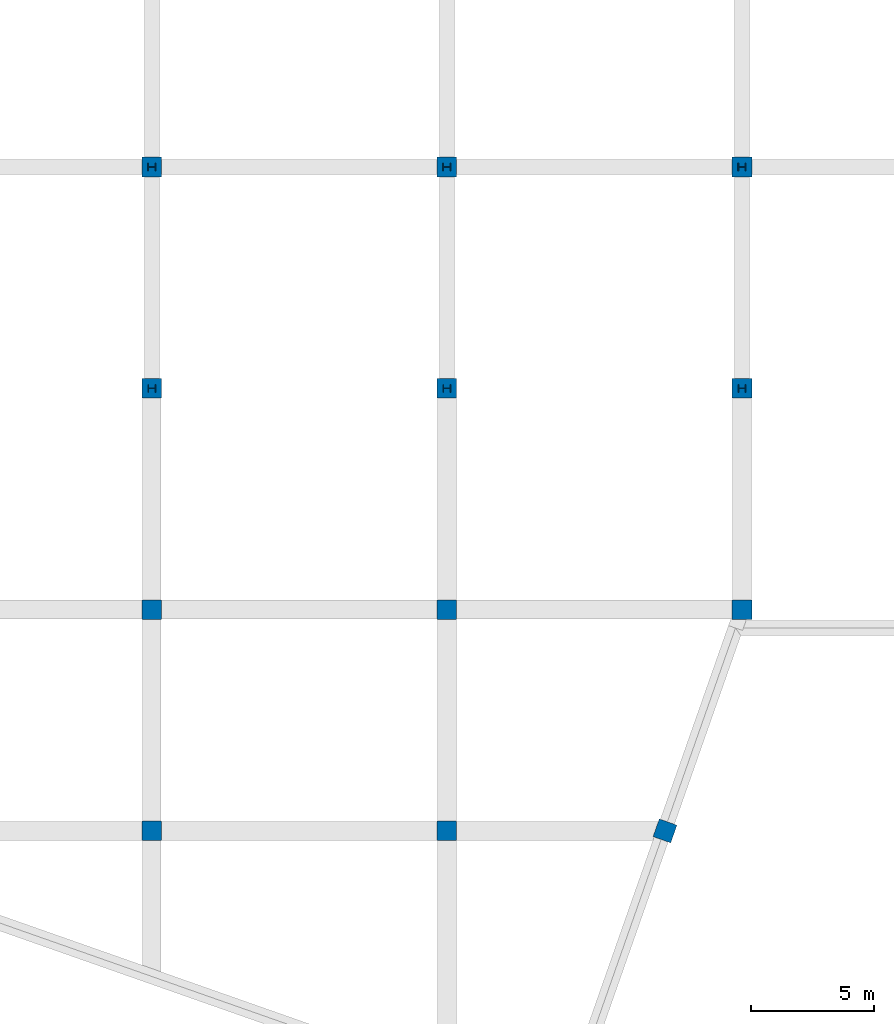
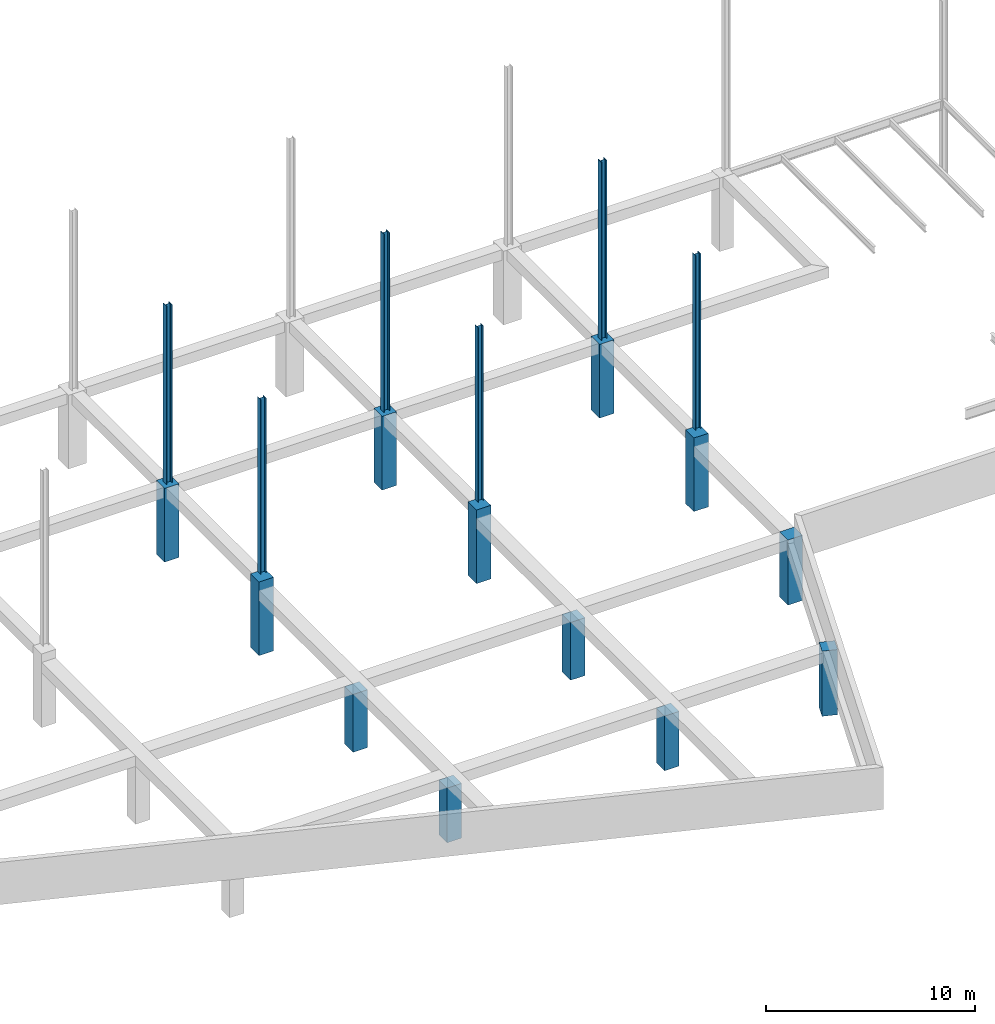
# One storey, part 3 of 19: 18 columns.
"""IFC2X3 building model written with IfcOpenShell, lengths in millimetres."""

import ifcopenshell
import ifcopenshell.guid

model = None  # the IFC model being written
_history = None  # IfcOwnerHistory: only IFC2X3 demands one
_inside = {}  # id of a spatial element -> (the spatial element, [elements in it])
_under = {}  # id of a project, library or spatial element -> (it, [spatial elements below it])
_declared = {}  # id of a project -> (the project, [libraries it declares])
_typed = {}  # id of a type object -> (the type object, [elements of that type])
_made_of = {}  # id of a material, layer set ... -> (it, [elements and type objects made of it])


def new_model(schema):
    """Start an empty IFC model of exactly this schema.

    Asked for "IFC4X3", IfcOpenShell would pick the latest addendum, in which some entities
    have other attributes; the version numbers below select the first issue.
    IFC2X3 requires an IfcOwnerHistory on every rooted entity: one is made here for all.
    """
    global model, _history
    if schema == "IFC4X3":
        model = ifcopenshell.file(schema_version=(4, 3, 0, 0))
    else:
        model = ifcopenshell.file(schema=schema)
    _inside.clear()
    _under.clear()
    _declared.clear()
    _typed.clear()
    _made_of.clear()
    _history = None
    if model.schema == "IFC2X3":
        org = make("IfcOrganization", Name="unknown")
        user = make(
            "IfcPersonAndOrganization",
            ThePerson=make("IfcPerson", FamilyName="unknown"),
            TheOrganization=org,
        )
        app = make(
            "IfcApplication",
            ApplicationDeveloper=org,
            Version="unknown",
            ApplicationFullName="unknown",
            ApplicationIdentifier="unknown",
        )
        _history = make(
            "IfcOwnerHistory",
            OwningUser=user,
            OwningApplication=app,
            ChangeAction="ADDED",
            CreationDate=0,
        )
    return model


def make(cls, **values):
    """One entity of the class cls with the attributes given. An attribute that is None is left unset."""
    return model.create_entity(
        cls, **{name: value for name, value in values.items() if value is not None}
    )


def rooted(cls, **values):
    """An entity with a GlobalId (a new one), such as an element, a storey or a relation."""
    return make(cls, GlobalId=ifcopenshell.guid.new(), OwnerHistory=_history, **values)


def si_unit(unit_type, name, prefix=None):
    """IfcSIUnit, for example si_unit("LENGTHUNIT", "METRE", prefix="MILLI")."""
    return make("IfcSIUnit", UnitType=unit_type, Prefix=prefix, Name=name)


def assignment(units):
    """IfcUnitAssignment: the units of a project."""
    return None if units is None else make("IfcUnitAssignment", Units=units)


def point(xyz):
    """IfcCartesianPoint."""
    return None if xyz is None else make("IfcCartesianPoint", Coordinates=xyz)


def direction(xyz):
    """IfcDirection."""
    return None if xyz is None else make("IfcDirection", DirectionRatios=xyz)


def frame(location, z_axis=None, x_axis=None):
    """IfcAxis2Placement3D, a coordinate frame: its origin and axes. An axis left out is left unset."""
    return make(
        "IfcAxis2Placement3D",
        Location=point(location),
        Axis=direction(z_axis),
        RefDirection=direction(x_axis),
    )


def origin():
    """The frame at (0, 0, 0) with its axes left unset."""
    return frame((0.0, 0.0, 0.0))


def place(relative_to, where):
    """IfcLocalPlacement: puts the frame where relative to a parent placement (None: the world)."""
    return make(
        "IfcLocalPlacement", PlacementRelTo=relative_to, RelativePlacement=where
    )


def context(
    kind, dimensions, precision=None, world=None, true_north=None, identifier=None
):
    """IfcGeometricRepresentationContext, for example the 3D "Model" context."""
    return make(
        "IfcGeometricRepresentationContext",
        ContextIdentifier=identifier,
        ContextType=kind,
        CoordinateSpaceDimension=dimensions,
        Precision=precision,
        WorldCoordinateSystem=world,
        TrueNorth=true_north,
    )


def project(units=None, contexts=None):
    """IfcProject with its units and contexts."""
    return rooted(
        "IfcProject",
        Name="project",
        RepresentationContexts=contexts,
        UnitsInContext=assignment(units),
    )


def spatial(cls, under=None, at=None, **own):
    """A site, building, storey or space (cls), placed at a placement, below another one or the project."""
    s = rooted(cls, ObjectPlacement=at, **own)
    if under is not None:
        _under.setdefault(under.id(), (under, []))[1].append(s)
    return s


def faces_of(points, faces, orient=None, outer=None):
    """IfcFace entities. A face is a list of loops; a loop is a list of indices into points, from 0.

    orient and outer hold one flag for each loop. By default every Orientation is true, the
    first loop of a face is its IfcFaceOuterBound and the others are IfcFaceBound.
    """
    made = []
    for i, loops in enumerate(faces):
        bounds = []
        for j, loop in enumerate(loops):
            is_outer = j == 0 if outer is None else outer[i][j]
            bounds.append(
                make(
                    "IfcFaceOuterBound" if is_outer else "IfcFaceBound",
                    Bound=make("IfcPolyLoop", Polygon=[points[k] for k in loop]),
                    Orientation=True if orient is None else orient[i][j],
                )
            )
        made.append(make("IfcFace", Bounds=bounds))
    return made


def faceted_brep(points, faces, orient=None, outer=None, voids=None):
    """IfcFacetedBrep: a solid bounded by flat faces; with voids (closed shells), ...WithVoids."""
    shared = [point(p) for p in points]
    hull = make("IfcClosedShell", CfsFaces=faces_of(shared, faces, orient, outer))
    if voids is None:
        return make("IfcFacetedBrep", Outer=hull)
    return make(
        "IfcFacetedBrepWithVoids",
        Outer=hull,
        Voids=[
            make(cls, CfsFaces=faces_of(shared, fs, o, b)) for cls, fs, o, b in voids
        ],
    )


def shape(context_of_items, identifier, shape_type, items):
    """IfcShapeRepresentation: the items that make up one representation, for example the "Body"."""
    return make(
        "IfcShapeRepresentation",
        ContextOfItems=context_of_items,
        RepresentationIdentifier=identifier,
        RepresentationType=shape_type,
        Items=items,
    )


def material(Name=None, Category=None):
    """IfcMaterial."""
    return make("IfcMaterial", Name=Name, Category=Category)


def made_of(thing, what):
    """Note that an element or type object is made of a material, layer set ...; save() writes the relation."""
    if what is not None:
        _made_of.setdefault(what.id(), (what, []))[1].append(thing)
    return thing


def element(
    cls,
    number,
    at=None,
    inside=None,
    cuts=None,
    type_object=None,
    material=None,
    context=None,
    identifier="Body",
    shape_type=None,
    held_by="IfcProductDefinitionShape",
    body=None,
    shapes=None,
    **own,
):
    """One element of the class cls, such as IfcWall. Its Tag is "e" and its number.

    at: its placement. inside: the storey or other place that contains it. cuts: it is an
    opening in that element (IfcRelVoidsElement). A single representation is given by context,
    identifier, shape_type and body (its items); several are given by shapes. held_by: the class
    of the entity that holds the representations. save() writes the other relations.
    """
    e = rooted(cls, Tag="e%d" % number, ObjectPlacement=at, **own)
    if body is not None:
        shapes = [shape(context, identifier, shape_type, body)]
    if shapes is not None:
        e.Representation = make(held_by, Representations=shapes)
    if inside is not None:
        _inside.setdefault(inside.id(), (inside, []))[1].append(e)
    if cuts is not None:
        rooted(
            "IfcRelVoidsElement", RelatingBuildingElement=cuts, RelatedOpeningElement=e
        )
    if type_object is not None:
        _typed.setdefault(type_object.id(), (type_object, []))[1].append(e)
    return made_of(e, material)


def aggregate(whole, parts):
    """IfcRelAggregates: a whole, such as a stair, and the parts it consists of."""
    return rooted("IfcRelAggregates", RelatingObject=whole, RelatedObjects=parts)


def save(model, path):
    """Write the relations noted so far, then the file.

    IfcRelAggregates (storeys below a building ...), IfcRelContainedInSpatialStructure (elements
    in a storey), IfcRelDefinesByType, IfcRelAssociatesMaterial and IfcRelDeclares: one each for
    every whole, place, type object, material and project.
    """
    for whole, parts in _under.values():
        aggregate(whole, parts)
    for where, things in _inside.values():
        rooted(
            "IfcRelContainedInSpatialStructure",
            RelatedElements=things,
            RelatingStructure=where,
        )
    for kind, things in _typed.values():
        rooted("IfcRelDefinesByType", RelatedObjects=things, RelatingType=kind)
    for what, things in _made_of.values():
        rooted("IfcRelAssociatesMaterial", RelatedObjects=things, RelatingMaterial=what)
    for by, libraries in _declared.values():
        rooted("IfcRelDeclares", RelatingContext=by, RelatedDefinitions=libraries)
    model.write(path)


model = new_model("IFC2X3")

# Units and contexts
context_of_model = context(None, 3, precision=1e-05, world=origin())
ifc_project = project(units=[si_unit("LENGTHUNIT", "METRE", prefix="MILLI")], contexts=[context_of_model])

# Building, storey
building = spatial("IfcBuilding", under=ifc_project, Name="Building", CompositionType="ELEMENT")
storey = spatial("IfcBuildingStorey", under=building, Name="FL2-FRM", CompositionType="ELEMENT")

# Columns
ifc_material_1 = material(Name="A992")
column_1_placement = place(None, origin())
element("IfcColumn", 1, at=column_1_placement, inside=storey, material=ifc_material_1, Name="Column280", context=context_of_model, shape_type="Brep", body=[
    faceted_brep([(-35836.5, 26845.0, 4296.8), (-35836.5, 27155.0, 4296.8), (-35836.5, 27155.0, 14694.2), (-35836.5, 26845.0, 14694.2), (-35861.6, 27155.0, 4296.8), (-35861.6, 27155.0, 14694.2), (-35861.6, 27022.9, 4296.8), (-35861.6, 27022.9, 14694.2), (-35862.1, 27019.0, 4296.8), (-35862.1, 27019.0, 14694.2), (-35863.6, 27015.3, 4296.8), (-35863.6, 27015.3, 14694.2), (-35866.1, 27012.2, 4296.8), (-35866.1, 27012.2, 14694.2), (-35869.2, 27009.8, 4296.8), (-35869.2, 27009.8, 14694.2), (-35872.9, 27008.3, 4296.8), (-35872.9, 27008.3, 14694.2), (-35876.8, 27007.8, 4296.8), (-35876.8, 27007.8, 14694.2), (-36123.2, 27007.8, 4296.8), (-36123.2, 27007.8, 14694.2), (-36127.1, 27008.3, 4296.8), (-36127.1, 27008.3, 14694.2), (-36130.8, 27009.8, 4296.8), (-36130.8, 27009.8, 14694.2), (-36133.9, 27012.2, 4296.8), (-36133.9, 27012.2, 14694.2), (-36136.4, 27015.3, 4296.8), (-36136.4, 27015.3, 14694.2), (-36137.9, 27019.0, 4296.8), (-36137.9, 27019.0, 14694.2), (-36138.4, 27022.9, 4296.8), (-36138.4, 27022.9, 14694.2), (-36138.4, 27155.0, 4296.8), (-36138.4, 27155.0, 14694.2), (-36163.5, 27155.0, 4296.8), (-36163.5, 27155.0, 14694.2), (-36163.5, 26845.0, 4296.8), (-36163.5, 26845.0, 14694.2), (-36138.4, 26845.0, 4296.8), (-36138.4, 26845.0, 14694.2), (-36138.4, 26977.1, 4296.8), (-36138.4, 26977.1, 14694.2), (-36137.9, 26981.0, 4296.8), (-36137.9, 26981.0, 14694.2), (-36136.4, 26984.7, 4296.8), (-36136.4, 26984.7, 14694.2), (-36133.9, 26987.8, 4296.8), (-36133.9, 26987.8, 14694.2), (-36130.8, 26990.2, 4296.8), (-36130.8, 26990.2, 14694.2), (-36127.1, 26991.7, 4296.8), (-36127.1, 26991.7, 14694.2), (-36123.2, 26992.3, 4296.8), (-36123.2, 26992.3, 14694.2), (-35876.8, 26992.3, 4296.8), (-35876.8, 26992.3, 14694.2), (-35872.9, 26991.7, 4296.8), (-35872.9, 26991.7, 14694.2), (-35869.2, 26990.2, 4296.8), (-35869.2, 26990.2, 14694.2), (-35866.1, 26987.8, 4296.8), (-35866.1, 26987.8, 14694.2), (-35863.6, 26984.7, 4296.8), (-35863.6, 26984.7, 14694.2), (-35862.1, 26981.0, 4296.8), (-35862.1, 26981.0, 14694.2), (-35861.6, 26977.1, 4296.8), (-35861.6, 26977.1, 14694.2), (-35861.6, 26845.0, 4296.8), (-35861.6, 26845.0, 14694.2)], [[[0, 1, 2, 3]], [[1, 4, 5, 2]], [[4, 6, 7, 5]], [[6, 8, 9, 7]], [[8, 10, 11, 9]], [[10, 12, 13, 11]], [[12, 14, 15, 13]], [[14, 16, 17, 15]], [[16, 18, 19, 17]], [[18, 20, 21, 19]], [[20, 22, 23, 21]], [[22, 24, 25, 23]], [[24, 26, 27, 25]], [[26, 28, 29, 27]], [[28, 30, 31, 29]], [[30, 32, 33, 31]], [[32, 34, 35, 33]], [[34, 36, 37, 35]], [[36, 38, 39, 37]], [[38, 40, 41, 39]], [[40, 42, 43, 41]], [[42, 44, 45, 43]], [[44, 46, 47, 45]], [[46, 48, 49, 47]], [[48, 50, 51, 49]], [[50, 52, 53, 51]], [[52, 54, 55, 53]], [[54, 56, 57, 55]], [[56, 58, 59, 57]], [[58, 60, 61, 59]], [[60, 62, 63, 61]], [[62, 64, 65, 63]], [[64, 66, 67, 65]], [[66, 68, 69, 67]], [[68, 70, 71, 69]], [[70, 0, 3, 71]], [[0, 70, 68, 66, 64, 62, 60, 58, 56, 54, 52, 50, 48, 46, 44, 42, 40, 38, 36, 34, 32, 30, 28, 26, 24, 22, 20, 18, 16, 14, 12, 10, 8, 6, 4, 1]], [[3, 2, 5, 7, 9, 11, 13, 15, 17, 19, 21, 23, 25, 27, 29, 31, 33, 35, 37, 39, 41, 43, 45, 47, 49, 51, 53, 55, 57, 59, 61, 63, 65, 67, 69, 71]]]),
])
ifc_material_2 = material(Name="A992")
column_2_placement = place(None, origin())
element("IfcColumn", 2, at=column_2_placement, inside=storey, material=ifc_material_2, Name="Column282", context=context_of_model, shape_type="Brep", body=[
    faceted_brep([(-35846.0, 17847.5, 4500.0), (-35846.0, 18152.5, 4500.0), (-35846.0, 18152.5, 14694.2), (-35846.0, 17847.5, 14694.2), (-35861.4, 18152.5, 4500.0), (-35861.4, 18152.5, 14694.2), (-35861.4, 18020.1, 4500.0), (-35861.4, 18020.1, 14694.2), (-35861.9, 18016.2, 4500.0), (-35861.9, 18016.2, 14694.2), (-35863.4, 18012.5, 4500.0), (-35863.4, 18012.5, 14694.2), (-35865.9, 18009.4, 4500.0), (-35865.9, 18009.4, 14694.2), (-35869.0, 18007.0, 4500.0), (-35869.0, 18007.0, 14694.2), (-35872.7, 18005.5, 4500.0), (-35872.7, 18005.5, 14694.2), (-35876.6, 18004.9, 4500.0), (-35876.6, 18004.9, 14694.2), (-36123.4, 18004.9, 4500.0), (-36123.4, 18004.9, 14694.2), (-36127.3, 18005.5, 4500.0), (-36127.3, 18005.5, 14694.2), (-36131.0, 18007.0, 4500.0), (-36131.0, 18007.0, 14694.2), (-36134.1, 18009.4, 4500.0), (-36134.1, 18009.4, 14694.2), (-36136.6, 18012.5, 4500.0), (-36136.6, 18012.5, 14694.2), (-36138.1, 18016.2, 4500.0), (-36138.1, 18016.2, 14694.2), (-36138.6, 18020.1, 4500.0), (-36138.6, 18020.1, 14694.2), (-36138.6, 18152.5, 4500.0), (-36138.6, 18152.5, 14694.2), (-36154.0, 18152.5, 4500.0), (-36154.0, 18152.5, 14694.2), (-36154.0, 17847.5, 4500.0), (-36154.0, 17847.5, 14694.2), (-36138.6, 17847.5, 4500.0), (-36138.6, 17847.5, 14694.2), (-36138.6, 17979.9, 4500.0), (-36138.6, 17979.9, 14694.2), (-36138.1, 17983.8, 4500.0), (-36138.1, 17983.8, 14694.2), (-36136.6, 17987.5, 4500.0), (-36136.6, 17987.5, 14694.2), (-36134.1, 17990.6, 4500.0), (-36134.1, 17990.6, 14694.2), (-36131.0, 17993.0, 4500.0), (-36131.0, 17993.0, 14694.2), (-36127.3, 17994.5, 4500.0), (-36127.3, 17994.5, 14694.2), (-36123.4, 17995.1, 4500.0), (-36123.4, 17995.1, 14694.2), (-35876.6, 17995.1, 4500.0), (-35876.6, 17995.1, 14694.2), (-35872.7, 17994.5, 4500.0), (-35872.7, 17994.5, 14694.2), (-35869.0, 17993.0, 4500.0), (-35869.0, 17993.0, 14694.2), (-35865.9, 17990.6, 4500.0), (-35865.9, 17990.6, 14694.2), (-35863.4, 17987.5, 4500.0), (-35863.4, 17987.5, 14694.2), (-35861.9, 17983.8, 4500.0), (-35861.9, 17983.8, 14694.2), (-35861.4, 17979.9, 4500.0), (-35861.4, 17979.9, 14694.2), (-35861.4, 17847.5, 4500.0), (-35861.4, 17847.5, 14694.2)], [[[0, 1, 2, 3]], [[1, 4, 5, 2]], [[4, 6, 7, 5]], [[6, 8, 9, 7]], [[8, 10, 11, 9]], [[10, 12, 13, 11]], [[12, 14, 15, 13]], [[14, 16, 17, 15]], [[16, 18, 19, 17]], [[18, 20, 21, 19]], [[20, 22, 23, 21]], [[22, 24, 25, 23]], [[24, 26, 27, 25]], [[26, 28, 29, 27]], [[28, 30, 31, 29]], [[30, 32, 33, 31]], [[32, 34, 35, 33]], [[34, 36, 37, 35]], [[36, 38, 39, 37]], [[38, 40, 41, 39]], [[40, 42, 43, 41]], [[42, 44, 45, 43]], [[44, 46, 47, 45]], [[46, 48, 49, 47]], [[48, 50, 51, 49]], [[50, 52, 53, 51]], [[52, 54, 55, 53]], [[54, 56, 57, 55]], [[56, 58, 59, 57]], [[58, 60, 61, 59]], [[60, 62, 63, 61]], [[62, 64, 65, 63]], [[64, 66, 67, 65]], [[66, 68, 69, 67]], [[68, 70, 71, 69]], [[70, 0, 3, 71]], [[0, 70, 68, 66, 64, 62, 60, 58, 56, 54, 52, 50, 48, 46, 44, 42, 40, 38, 36, 34, 32, 30, 28, 26, 24, 22, 20, 18, 16, 14, 12, 10, 8, 6, 4, 1]], [[3, 2, 5, 7, 9, 11, 13, 15, 17, 19, 21, 23, 25, 27, 29, 31, 33, 35, 37, 39, 41, 43, 45, 47, 49, 51, 53, 55, 57, 59, 61, 63, 65, 67, 69, 71]]]),
])
ifc_material_3 = material(Name="A992")
column_3_placement = place(None, origin())
element("IfcColumn", 3, at=column_3_placement, inside=storey, material=ifc_material_3, Name="Column286", context=context_of_model, shape_type="Brep", body=[
    faceted_brep([(-23836.5, 26845.0, 4296.8), (-23836.5, 27155.0, 4296.8), (-23836.5, 27155.0, 14694.2), (-23836.5, 26845.0, 14694.2), (-23861.6, 27155.0, 4296.8), (-23861.6, 27155.0, 14694.2), (-23861.6, 27022.9, 4296.8), (-23861.6, 27022.9, 14694.2), (-23862.1, 27019.0, 4296.8), (-23862.1, 27019.0, 14694.2), (-23863.6, 27015.3, 4296.8), (-23863.6, 27015.3, 14694.2), (-23866.1, 27012.2, 4296.8), (-23866.1, 27012.2, 14694.2), (-23869.2, 27009.8, 4296.8), (-23869.2, 27009.8, 14694.2), (-23872.9, 27008.3, 4296.8), (-23872.9, 27008.3, 14694.2), (-23876.8, 27007.8, 4296.8), (-23876.8, 27007.8, 14694.2), (-24123.2, 27007.8, 4296.8), (-24123.2, 27007.8, 14694.2), (-24127.1, 27008.3, 4296.8), (-24127.1, 27008.3, 14694.2), (-24130.8, 27009.8, 4296.8), (-24130.8, 27009.8, 14694.2), (-24133.9, 27012.2, 4296.8), (-24133.9, 27012.2, 14694.2), (-24136.4, 27015.3, 4296.8), (-24136.4, 27015.3, 14694.2), (-24137.9, 27019.0, 4296.8), (-24137.9, 27019.0, 14694.2), (-24138.4, 27022.9, 4296.8), (-24138.4, 27022.9, 14694.2), (-24138.4, 27155.0, 4296.8), (-24138.4, 27155.0, 14694.2), (-24163.5, 27155.0, 4296.8), (-24163.5, 27155.0, 14694.2), (-24163.5, 26845.0, 4296.8), (-24163.5, 26845.0, 14694.2), (-24138.4, 26845.0, 4296.8), (-24138.4, 26845.0, 14694.2), (-24138.4, 26977.1, 4296.8), (-24138.4, 26977.1, 14694.2), (-24137.9, 26981.0, 4296.8), (-24137.9, 26981.0, 14694.2), (-24136.4, 26984.7, 4296.8), (-24136.4, 26984.7, 14694.2), (-24133.9, 26987.8, 4296.8), (-24133.9, 26987.8, 14694.2), (-24130.8, 26990.2, 4296.8), (-24130.8, 26990.2, 14694.2), (-24127.1, 26991.7, 4296.8), (-24127.1, 26991.7, 14694.2), (-24123.2, 26992.3, 4296.8), (-24123.2, 26992.3, 14694.2), (-23876.8, 26992.3, 4296.8), (-23876.8, 26992.3, 14694.2), (-23872.9, 26991.7, 4296.8), (-23872.9, 26991.7, 14694.2), (-23869.2, 26990.2, 4296.8), (-23869.2, 26990.2, 14694.2), (-23866.1, 26987.8, 4296.8), (-23866.1, 26987.8, 14694.2), (-23863.6, 26984.7, 4296.8), (-23863.6, 26984.7, 14694.2), (-23862.1, 26981.0, 4296.8), (-23862.1, 26981.0, 14694.2), (-23861.6, 26977.1, 4296.8), (-23861.6, 26977.1, 14694.2), (-23861.6, 26845.0, 4296.8), (-23861.6, 26845.0, 14694.2)], [[[0, 1, 2, 3]], [[1, 4, 5, 2]], [[4, 6, 7, 5]], [[6, 8, 9, 7]], [[8, 10, 11, 9]], [[10, 12, 13, 11]], [[12, 14, 15, 13]], [[14, 16, 17, 15]], [[16, 18, 19, 17]], [[18, 20, 21, 19]], [[20, 22, 23, 21]], [[22, 24, 25, 23]], [[24, 26, 27, 25]], [[26, 28, 29, 27]], [[28, 30, 31, 29]], [[30, 32, 33, 31]], [[32, 34, 35, 33]], [[34, 36, 37, 35]], [[36, 38, 39, 37]], [[38, 40, 41, 39]], [[40, 42, 43, 41]], [[42, 44, 45, 43]], [[44, 46, 47, 45]], [[46, 48, 49, 47]], [[48, 50, 51, 49]], [[50, 52, 53, 51]], [[52, 54, 55, 53]], [[54, 56, 57, 55]], [[56, 58, 59, 57]], [[58, 60, 61, 59]], [[60, 62, 63, 61]], [[62, 64, 65, 63]], [[64, 66, 67, 65]], [[66, 68, 69, 67]], [[68, 70, 71, 69]], [[70, 0, 3, 71]], [[0, 70, 68, 66, 64, 62, 60, 58, 56, 54, 52, 50, 48, 46, 44, 42, 40, 38, 36, 34, 32, 30, 28, 26, 24, 22, 20, 18, 16, 14, 12, 10, 8, 6, 4, 1]], [[3, 2, 5, 7, 9, 11, 13, 15, 17, 19, 21, 23, 25, 27, 29, 31, 33, 35, 37, 39, 41, 43, 45, 47, 49, 51, 53, 55, 57, 59, 61, 63, 65, 67, 69, 71]]]),
])
ifc_material_4 = material(Name="A992")
column_4_placement = place(None, origin())
element("IfcColumn", 4, at=column_4_placement, inside=storey, material=ifc_material_4, Name="Column288", context=context_of_model, shape_type="Brep", body=[
    faceted_brep([(-23846.0, 17847.5, 4500.0), (-23846.0, 18152.5, 4500.0), (-23846.0, 18152.5, 14694.2), (-23846.0, 17847.5, 14694.2), (-23861.4, 18152.5, 4500.0), (-23861.4, 18152.5, 14694.2), (-23861.4, 18020.1, 4500.0), (-23861.4, 18020.1, 14694.2), (-23861.9, 18016.2, 4500.0), (-23861.9, 18016.2, 14694.2), (-23863.4, 18012.5, 4500.0), (-23863.4, 18012.5, 14694.2), (-23865.9, 18009.4, 4500.0), (-23865.9, 18009.4, 14694.2), (-23869.0, 18007.0, 4500.0), (-23869.0, 18007.0, 14694.2), (-23872.7, 18005.5, 4500.0), (-23872.7, 18005.5, 14694.2), (-23876.6, 18004.9, 4500.0), (-23876.6, 18004.9, 14694.2), (-24123.4, 18004.9, 4500.0), (-24123.4, 18004.9, 14694.2), (-24127.3, 18005.5, 4500.0), (-24127.3, 18005.5, 14694.2), (-24131.0, 18007.0, 4500.0), (-24131.0, 18007.0, 14694.2), (-24134.1, 18009.4, 4500.0), (-24134.1, 18009.4, 14694.2), (-24136.6, 18012.5, 4500.0), (-24136.6, 18012.5, 14694.2), (-24138.1, 18016.2, 4500.0), (-24138.1, 18016.2, 14694.2), (-24138.6, 18020.1, 4500.0), (-24138.6, 18020.1, 14694.2), (-24138.6, 18152.5, 4500.0), (-24138.6, 18152.5, 14694.2), (-24154.0, 18152.5, 4500.0), (-24154.0, 18152.5, 14694.2), (-24154.0, 17847.5, 4500.0), (-24154.0, 17847.5, 14694.2), (-24138.6, 17847.5, 4500.0), (-24138.6, 17847.5, 14694.2), (-24138.6, 17979.9, 4500.0), (-24138.6, 17979.9, 14694.2), (-24138.1, 17983.8, 4500.0), (-24138.1, 17983.8, 14694.2), (-24136.6, 17987.5, 4500.0), (-24136.6, 17987.5, 14694.2), (-24134.1, 17990.6, 4500.0), (-24134.1, 17990.6, 14694.2), (-24131.0, 17993.0, 4500.0), (-24131.0, 17993.0, 14694.2), (-24127.3, 17994.5, 4500.0), (-24127.3, 17994.5, 14694.2), (-24123.4, 17995.1, 4500.0), (-24123.4, 17995.1, 14694.2), (-23876.6, 17995.1, 4500.0), (-23876.6, 17995.1, 14694.2), (-23872.7, 17994.5, 4500.0), (-23872.7, 17994.5, 14694.2), (-23869.0, 17993.0, 4500.0), (-23869.0, 17993.0, 14694.2), (-23865.9, 17990.6, 4500.0), (-23865.9, 17990.6, 14694.2), (-23863.4, 17987.5, 4500.0), (-23863.4, 17987.5, 14694.2), (-23861.9, 17983.8, 4500.0), (-23861.9, 17983.8, 14694.2), (-23861.4, 17979.9, 4500.0), (-23861.4, 17979.9, 14694.2), (-23861.4, 17847.5, 4500.0), (-23861.4, 17847.5, 14694.2)], [[[0, 1, 2, 3]], [[1, 4, 5, 2]], [[4, 6, 7, 5]], [[6, 8, 9, 7]], [[8, 10, 11, 9]], [[10, 12, 13, 11]], [[12, 14, 15, 13]], [[14, 16, 17, 15]], [[16, 18, 19, 17]], [[18, 20, 21, 19]], [[20, 22, 23, 21]], [[22, 24, 25, 23]], [[24, 26, 27, 25]], [[26, 28, 29, 27]], [[28, 30, 31, 29]], [[30, 32, 33, 31]], [[32, 34, 35, 33]], [[34, 36, 37, 35]], [[36, 38, 39, 37]], [[38, 40, 41, 39]], [[40, 42, 43, 41]], [[42, 44, 45, 43]], [[44, 46, 47, 45]], [[46, 48, 49, 47]], [[48, 50, 51, 49]], [[50, 52, 53, 51]], [[52, 54, 55, 53]], [[54, 56, 57, 55]], [[56, 58, 59, 57]], [[58, 60, 61, 59]], [[60, 62, 63, 61]], [[62, 64, 65, 63]], [[64, 66, 67, 65]], [[66, 68, 69, 67]], [[68, 70, 71, 69]], [[70, 0, 3, 71]], [[0, 70, 68, 66, 64, 62, 60, 58, 56, 54, 52, 50, 48, 46, 44, 42, 40, 38, 36, 34, 32, 30, 28, 26, 24, 22, 20, 18, 16, 14, 12, 10, 8, 6, 4, 1]], [[3, 2, 5, 7, 9, 11, 13, 15, 17, 19, 21, 23, 25, 27, 29, 31, 33, 35, 37, 39, 41, 43, 45, 47, 49, 51, 53, 55, 57, 59, 61, 63, 65, 67, 69, 71]]]),
])
ifc_material_5 = material(Name="A992")
column_5_placement = place(None, origin())
element("IfcColumn", 5, at=column_5_placement, inside=storey, material=ifc_material_5, Name="Column292", context=context_of_model, shape_type="Brep", body=[
    faceted_brep([(-11836.5, 26845.0, 4296.8), (-11836.5, 27155.0, 4296.8), (-11836.5, 27155.0, 14694.2), (-11836.5, 26845.0, 14694.2), (-11861.6, 27155.0, 4296.8), (-11861.6, 27155.0, 14694.2), (-11861.6, 27022.9, 4296.8), (-11861.6, 27022.9, 14694.2), (-11862.1, 27019.0, 4296.8), (-11862.1, 27019.0, 14694.2), (-11863.6, 27015.3, 4296.8), (-11863.6, 27015.3, 14694.2), (-11866.1, 27012.2, 4296.8), (-11866.1, 27012.2, 14694.2), (-11869.2, 27009.8, 4296.8), (-11869.2, 27009.8, 14694.2), (-11872.9, 27008.3, 4296.8), (-11872.9, 27008.3, 14694.2), (-11876.8, 27007.8, 4296.8), (-11876.8, 27007.8, 14694.2), (-12123.2, 27007.8, 4296.8), (-12123.2, 27007.8, 14694.2), (-12127.1, 27008.3, 4296.8), (-12127.1, 27008.3, 14694.2), (-12130.8, 27009.8, 4296.8), (-12130.8, 27009.8, 14694.2), (-12133.9, 27012.2, 4296.8), (-12133.9, 27012.2, 14694.2), (-12136.4, 27015.3, 4296.8), (-12136.4, 27015.3, 14694.2), (-12137.9, 27019.0, 4296.8), (-12137.9, 27019.0, 14694.2), (-12138.4, 27022.9, 4296.8), (-12138.4, 27022.9, 14694.2), (-12138.4, 27155.0, 4296.8), (-12138.4, 27155.0, 14694.2), (-12163.5, 27155.0, 4296.8), (-12163.5, 27155.0, 14694.2), (-12163.5, 26845.0, 4296.8), (-12163.5, 26845.0, 14694.2), (-12138.4, 26845.0, 4296.8), (-12138.4, 26845.0, 14694.2), (-12138.4, 26977.1, 4296.8), (-12138.4, 26977.1, 14694.2), (-12137.9, 26981.0, 4296.8), (-12137.9, 26981.0, 14694.2), (-12136.4, 26984.7, 4296.8), (-12136.4, 26984.7, 14694.2), (-12133.9, 26987.8, 4296.8), (-12133.9, 26987.8, 14694.2), (-12130.8, 26990.2, 4296.8), (-12130.8, 26990.2, 14694.2), (-12127.1, 26991.7, 4296.8), (-12127.1, 26991.7, 14694.2), (-12123.2, 26992.3, 4296.8), (-12123.2, 26992.3, 14694.2), (-11876.8, 26992.3, 4296.8), (-11876.8, 26992.3, 14694.2), (-11872.9, 26991.7, 4296.8), (-11872.9, 26991.7, 14694.2), (-11869.2, 26990.2, 4296.8), (-11869.2, 26990.2, 14694.2), (-11866.1, 26987.8, 4296.8), (-11866.1, 26987.8, 14694.2), (-11863.6, 26984.7, 4296.8), (-11863.6, 26984.7, 14694.2), (-11862.1, 26981.0, 4296.8), (-11862.1, 26981.0, 14694.2), (-11861.6, 26977.1, 4296.8), (-11861.6, 26977.1, 14694.2), (-11861.6, 26845.0, 4296.8), (-11861.6, 26845.0, 14694.2)], [[[0, 1, 2, 3]], [[1, 4, 5, 2]], [[4, 6, 7, 5]], [[6, 8, 9, 7]], [[8, 10, 11, 9]], [[10, 12, 13, 11]], [[12, 14, 15, 13]], [[14, 16, 17, 15]], [[16, 18, 19, 17]], [[18, 20, 21, 19]], [[20, 22, 23, 21]], [[22, 24, 25, 23]], [[24, 26, 27, 25]], [[26, 28, 29, 27]], [[28, 30, 31, 29]], [[30, 32, 33, 31]], [[32, 34, 35, 33]], [[34, 36, 37, 35]], [[36, 38, 39, 37]], [[38, 40, 41, 39]], [[40, 42, 43, 41]], [[42, 44, 45, 43]], [[44, 46, 47, 45]], [[46, 48, 49, 47]], [[48, 50, 51, 49]], [[50, 52, 53, 51]], [[52, 54, 55, 53]], [[54, 56, 57, 55]], [[56, 58, 59, 57]], [[58, 60, 61, 59]], [[60, 62, 63, 61]], [[62, 64, 65, 63]], [[64, 66, 67, 65]], [[66, 68, 69, 67]], [[68, 70, 71, 69]], [[70, 0, 3, 71]], [[0, 70, 68, 66, 64, 62, 60, 58, 56, 54, 52, 50, 48, 46, 44, 42, 40, 38, 36, 34, 32, 30, 28, 26, 24, 22, 20, 18, 16, 14, 12, 10, 8, 6, 4, 1]], [[3, 2, 5, 7, 9, 11, 13, 15, 17, 19, 21, 23, 25, 27, 29, 31, 33, 35, 37, 39, 41, 43, 45, 47, 49, 51, 53, 55, 57, 59, 61, 63, 65, 67, 69, 71]]]),
])
ifc_material_6 = material(Name="A992")
column_6_placement = place(None, origin())
element("IfcColumn", 6, at=column_6_placement, inside=storey, material=ifc_material_6, Name="Column294", context=context_of_model, shape_type="Brep", body=[
    faceted_brep([(-11846.0, 17847.5, 4500.0), (-11846.0, 18152.5, 4500.0), (-11846.0, 18152.5, 14694.2), (-11846.0, 17847.5, 14694.2), (-11861.4, 18152.5, 4500.0), (-11861.4, 18152.5, 14694.2), (-11861.4, 18020.1, 4500.0), (-11861.4, 18020.1, 14694.2), (-11861.9, 18016.2, 4500.0), (-11861.9, 18016.2, 14694.2), (-11863.4, 18012.5, 4500.0), (-11863.4, 18012.5, 14694.2), (-11865.9, 18009.4, 4500.0), (-11865.9, 18009.4, 14694.2), (-11869.0, 18007.0, 4500.0), (-11869.0, 18007.0, 14694.2), (-11872.7, 18005.5, 4500.0), (-11872.7, 18005.5, 14694.2), (-11876.6, 18004.9, 4500.0), (-11876.6, 18004.9, 14694.2), (-12123.4, 18004.9, 4500.0), (-12123.4, 18004.9, 14694.2), (-12127.3, 18005.5, 4500.0), (-12127.3, 18005.5, 14694.2), (-12131.0, 18007.0, 4500.0), (-12131.0, 18007.0, 14694.2), (-12134.1, 18009.4, 4500.0), (-12134.1, 18009.4, 14694.2), (-12136.6, 18012.5, 4500.0), (-12136.6, 18012.5, 14694.2), (-12138.1, 18016.2, 4500.0), (-12138.1, 18016.2, 14694.2), (-12138.6, 18020.1, 4500.0), (-12138.6, 18020.1, 14694.2), (-12138.6, 18152.5, 4500.0), (-12138.6, 18152.5, 14694.2), (-12154.0, 18152.5, 4500.0), (-12154.0, 18152.5, 14694.2), (-12154.0, 17847.5, 4500.0), (-12154.0, 17847.5, 14694.2), (-12138.6, 17847.5, 4500.0), (-12138.6, 17847.5, 14694.2), (-12138.6, 17979.9, 4500.0), (-12138.6, 17979.9, 14694.2), (-12138.1, 17983.8, 4500.0), (-12138.1, 17983.8, 14694.2), (-12136.6, 17987.5, 4500.0), (-12136.6, 17987.5, 14694.2), (-12134.1, 17990.6, 4500.0), (-12134.1, 17990.6, 14694.2), (-12131.0, 17993.0, 4500.0), (-12131.0, 17993.0, 14694.2), (-12127.3, 17994.5, 4500.0), (-12127.3, 17994.5, 14694.2), (-12123.4, 17995.1, 4500.0), (-12123.4, 17995.1, 14694.2), (-11876.6, 17995.1, 4500.0), (-11876.6, 17995.1, 14694.2), (-11872.7, 17994.5, 4500.0), (-11872.7, 17994.5, 14694.2), (-11869.0, 17993.0, 4500.0), (-11869.0, 17993.0, 14694.2), (-11865.9, 17990.6, 4500.0), (-11865.9, 17990.6, 14694.2), (-11863.4, 17987.5, 4500.0), (-11863.4, 17987.5, 14694.2), (-11861.9, 17983.8, 4500.0), (-11861.9, 17983.8, 14694.2), (-11861.4, 17979.9, 4500.0), (-11861.4, 17979.9, 14694.2), (-11861.4, 17847.5, 4500.0), (-11861.4, 17847.5, 14694.2)], [[[0, 1, 2, 3]], [[1, 4, 5, 2]], [[4, 6, 7, 5]], [[6, 8, 9, 7]], [[8, 10, 11, 9]], [[10, 12, 13, 11]], [[12, 14, 15, 13]], [[14, 16, 17, 15]], [[16, 18, 19, 17]], [[18, 20, 21, 19]], [[20, 22, 23, 21]], [[22, 24, 25, 23]], [[24, 26, 27, 25]], [[26, 28, 29, 27]], [[28, 30, 31, 29]], [[30, 32, 33, 31]], [[32, 34, 35, 33]], [[34, 36, 37, 35]], [[36, 38, 39, 37]], [[38, 40, 41, 39]], [[40, 42, 43, 41]], [[42, 44, 45, 43]], [[44, 46, 47, 45]], [[46, 48, 49, 47]], [[48, 50, 51, 49]], [[50, 52, 53, 51]], [[52, 54, 55, 53]], [[54, 56, 57, 55]], [[56, 58, 59, 57]], [[58, 60, 61, 59]], [[60, 62, 63, 61]], [[62, 64, 65, 63]], [[64, 66, 67, 65]], [[66, 68, 69, 67]], [[68, 70, 71, 69]], [[70, 0, 3, 71]], [[0, 70, 68, 66, 64, 62, 60, 58, 56, 54, 52, 50, 48, 46, 44, 42, 40, 38, 36, 34, 32, 30, 28, 26, 24, 22, 20, 18, 16, 14, 12, 10, 8, 6, 4, 1]], [[3, 2, 5, 7, 9, 11, 13, 15, 17, 19, 21, 23, 25, 27, 29, 31, 33, 35, 37, 39, 41, 43, 45, 47, 49, 51, 53, 55, 57, 59, 61, 63, 65, 67, 69, 71]]]),
])
ifc_material_7 = material(Name="C5000")
column_7_placement = place(None, origin())
element("IfcColumn", 7, at=column_7_placement, inside=storey, material=ifc_material_7, Name="Column553", context=context_of_model, shape_type="Brep", body=[
    faceted_brep([(-35600.0, -400.05, 5.26382e-06), (-35600.0, 400.05, 5.26382e-06), (-35600.0, 400.05, 3190.4), (-35600.0, -400.05, 3190.4), (-36400.1, 400.05, -5.26382e-06), (-36400.1, 400.05, 3190.4), (-36400.1, -400.05, -5.26382e-06), (-36400.1, -400.05, 3190.4)], [[[0, 1, 2, 3]], [[1, 4, 5, 2]], [[4, 6, 7, 5]], [[6, 0, 3, 7]], [[0, 6, 4, 1]], [[3, 2, 5, 7]]]),
])
ifc_material_8 = material(Name="C5000")
column_8_placement = place(None, origin())
element("IfcColumn", 8, at=column_8_placement, inside=storey, material=ifc_material_8, Name="Column554", context=context_of_model, shape_type="Brep", body=[
    faceted_brep([(-35599.9, 8599.95, -177.8), (-35599.9, 9400.05, -177.8), (-35599.9, 9400.05, 3190.4), (-35599.9, 8599.95, 3190.4), (-36400.0, 9400.05, -177.8), (-36400.0, 9400.05, 3190.4), (-36400.0, 8599.95, -177.8), (-36400.0, 8599.95, 3190.4)], [[[0, 1, 2, 3]], [[1, 4, 5, 2]], [[4, 6, 7, 5]], [[6, 0, 3, 7]], [[0, 6, 4, 1]], [[3, 2, 5, 7]]]),
])
ifc_material_9 = material(Name="C5000")
column_9_placement = place(None, origin())
element("IfcColumn", 9, at=column_9_placement, inside=storey, material=ifc_material_9, Name="Column555", context=context_of_model, shape_type="Brep", body=[
    faceted_brep([(-23599.9, 8599.95, -177.8), (-23599.9, 9400.05, -177.8), (-23599.9, 9400.05, 3190.4), (-23599.9, 8599.95, 3190.4), (-24400.0, 9400.05, -177.8), (-24400.0, 9400.05, 3190.4), (-24400.0, 8599.95, -177.8), (-24400.0, 8599.95, 3190.4)], [[[0, 1, 2, 3]], [[1, 4, 5, 2]], [[4, 6, 7, 5]], [[6, 0, 3, 7]], [[0, 6, 4, 1]], [[3, 2, 5, 7]]]),
])
ifc_material_10 = material(Name="C5000")
column_10_placement = place(None, origin())
element("IfcColumn", 10, at=column_10_placement, inside=storey, material=ifc_material_10, Name="Column556", context=context_of_model, shape_type="Brep", body=[
    faceted_brep([(-23599.9, -400.05, 1.18735e-05), (-23599.9, 400.05, 1.18735e-05), (-23599.9, 400.05, 3190.4), (-23599.9, -400.05, 3190.4), (-24400.0, 400.05, -1.18735e-05), (-24400.0, 400.05, 3190.4), (-24400.0, -400.05, -1.18735e-05), (-24400.0, -400.05, 3190.4)], [[[0, 1, 2, 3]], [[1, 4, 5, 2]], [[4, 6, 7, 5]], [[6, 0, 3, 7]], [[0, 6, 4, 1]], [[3, 2, 5, 7]]]),
])
ifc_material_11 = material(Name="C5000")
column_11_placement = place(None, origin())
element("IfcColumn", 11, at=column_11_placement, inside=storey, material=ifc_material_11, Name="Column557", context=context_of_model, shape_type="Brep", body=[
    faceted_brep([(-11599.9, 8599.95, 0.0), (-11599.9, 9400.05, 0.0), (-11599.9, 9400.05, 3800.0), (-11599.9, 8599.95, 3800.0), (-12400.1, 9400.05, 0.0), (-12400.1, 9400.05, 3800.0), (-12400.1, 8599.95, 0.0), (-12400.1, 8599.95, 3800.0)], [[[0, 1, 2, 3]], [[1, 4, 5, 2]], [[4, 6, 7, 5]], [[6, 0, 3, 7]], [[0, 6, 4, 1]], [[3, 2, 5, 7]]]),
])
ifc_material_12 = material(Name="C5000")
column_12_placement = place(None, origin())
element("IfcColumn", 12, at=column_12_placement, inside=storey, material=ifc_material_12, Name="Column558", context=context_of_model, shape_type="Brep", body=[
    faceted_brep([(-11599.9, 17600.0, 0.0), (-11599.9, 18400.0, 0.0), (-11599.9, 18400.0, 4296.8), (-11599.9, 17600.0, 4296.8), (-12400.1, 18400.0, 0.0), (-12400.1, 18400.0, 4296.8), (-12400.1, 17600.0, 0.0), (-12400.1, 17600.0, 4296.8)], [[[0, 1, 2, 3]], [[1, 4, 5, 2]], [[4, 6, 7, 5]], [[6, 0, 3, 7]], [[0, 6, 4, 1]], [[3, 2, 5, 7]]]),
])
ifc_material_13 = material(Name="C5000")
column_13_placement = place(None, origin())
element("IfcColumn", 13, at=column_13_placement, inside=storey, material=ifc_material_13, Name="Column559", context=context_of_model, shape_type="Brep", body=[
    faceted_brep([(-23600.0, 17600.0, 0.0), (-23600.0, 18400.0, 0.0), (-23600.0, 18400.0, 4296.8), (-23600.0, 17600.0, 4296.8), (-24400.0, 18400.0, 0.0), (-24400.0, 18400.0, 4296.8), (-24400.0, 17600.0, 0.0), (-24400.0, 17600.0, 4296.8)], [[[0, 1, 2, 3]], [[1, 4, 5, 2]], [[4, 6, 7, 5]], [[6, 0, 3, 7]], [[0, 6, 4, 1]], [[3, 2, 5, 7]]]),
])
ifc_material_14 = material(Name="C5000")
column_14_placement = place(None, origin())
element("IfcColumn", 14, at=column_14_placement, inside=storey, material=ifc_material_14, Name="Column560", context=context_of_model, shape_type="Brep", body=[
    faceted_brep([(-35599.9, 17600.0, 0.0), (-35599.9, 18400.0, 0.0), (-35599.9, 18400.0, 4296.8), (-35599.9, 17600.0, 4296.8), (-36400.1, 18400.0, 0.0), (-36400.1, 18400.0, 4296.8), (-36400.1, 17600.0, 0.0), (-36400.1, 17600.0, 4296.8)], [[[0, 1, 2, 3]], [[1, 4, 5, 2]], [[4, 6, 7, 5]], [[6, 0, 3, 7]], [[0, 6, 4, 1]], [[3, 2, 5, 7]]]),
])
ifc_material_15 = material(Name="C5000")
column_15_placement = place(None, origin())
element("IfcColumn", 15, at=column_15_placement, inside=storey, material=ifc_material_15, Name="Column564", context=context_of_model, shape_type="Brep", body=[
    faceted_brep([(-35599.9, 27400.0, 0.0), (-36400.1, 27400.0, 0.0), (-36400.1, 27400.0, 4296.8), (-35599.9, 27400.0, 4296.8), (-36400.1, 26600.0, 0.0), (-36400.1, 26600.0, 4296.8), (-35599.9, 26600.0, 0.0), (-35599.9, 26600.0, 4296.8)], [[[0, 1, 2, 3]], [[1, 4, 5, 2]], [[4, 6, 7, 5]], [[6, 0, 3, 7]], [[0, 6, 4, 1]], [[3, 2, 5, 7]]]),
])
ifc_material_16 = material(Name="C5000")
column_16_placement = place(None, origin())
element("IfcColumn", 16, at=column_16_placement, inside=storey, material=ifc_material_16, Name="Column565", context=context_of_model, shape_type="Brep", body=[
    faceted_brep([(-23599.9, 27400.0, 3.15836e-13), (-24400.0, 27400.0, -3.15836e-13), (-24400.0, 27400.0, 4296.8), (-23600.0, 27400.0, 4296.8), (-24400.0, 26600.0, -3.15836e-13), (-24400.0, 26600.0, 4296.8), (-23599.9, 26600.0, 3.15836e-13), (-23600.0, 26600.0, 4296.8)], [[[0, 1, 2, 3]], [[1, 4, 5, 2]], [[4, 6, 7, 5]], [[6, 0, 3, 7]], [[0, 6, 4, 1]], [[3, 2, 5, 7]]]),
])
ifc_material_17 = material(Name="C5000")
column_17_placement = place(None, origin())
element("IfcColumn", 17, at=column_17_placement, inside=storey, material=ifc_material_17, Name="Column566", context=context_of_model, shape_type="Brep", body=[
    faceted_brep([(-11599.9, 27400.0, 1.57918e-13), (-12400.0, 27400.0, -1.57918e-13), (-12400.1, 27400.0, 4296.8), (-11599.9, 27400.0, 4296.8), (-12400.0, 26600.0, -1.57918e-13), (-12400.1, 26600.0, 4296.8), (-11599.9, 26600.0, 1.57918e-13), (-11599.9, 26600.0, 4296.8)], [[[0, 1, 2, 3]], [[1, 4, 5, 2]], [[4, 6, 7, 5]], [[6, 0, 3, 7]], [[0, 6, 4, 1]], [[3, 2, 5, 7]]]),
])
ifc_material_18 = material(Name="C5000")
column_18_placement = place(None, origin())
element("IfcColumn", 18, at=column_18_placement, inside=storey, material=ifc_material_18, Name="Column625", context=context_of_model, shape_type="Brep", body=[
    faceted_brep([(-14897.1, -485.79, 1.97215e-28), (-14644.4, 233.089, 3.03919e-13), (-14644.4, 233.089, 3800.0), (-14897.1, -485.79, 3800.0), (-15363.2, 485.79, 3.03919e-13), (-15363.2, 485.79, 3800.0), (-15615.9, -233.089, 0.0), (-15615.9, -233.089, 3800.0)], [[[0, 1, 2, 3]], [[1, 4, 5, 2]], [[4, 6, 7, 5]], [[6, 0, 3, 7]], [[0, 6, 4, 1]], [[3, 2, 5, 7]]]),
])

save(model, "model.ifc")
